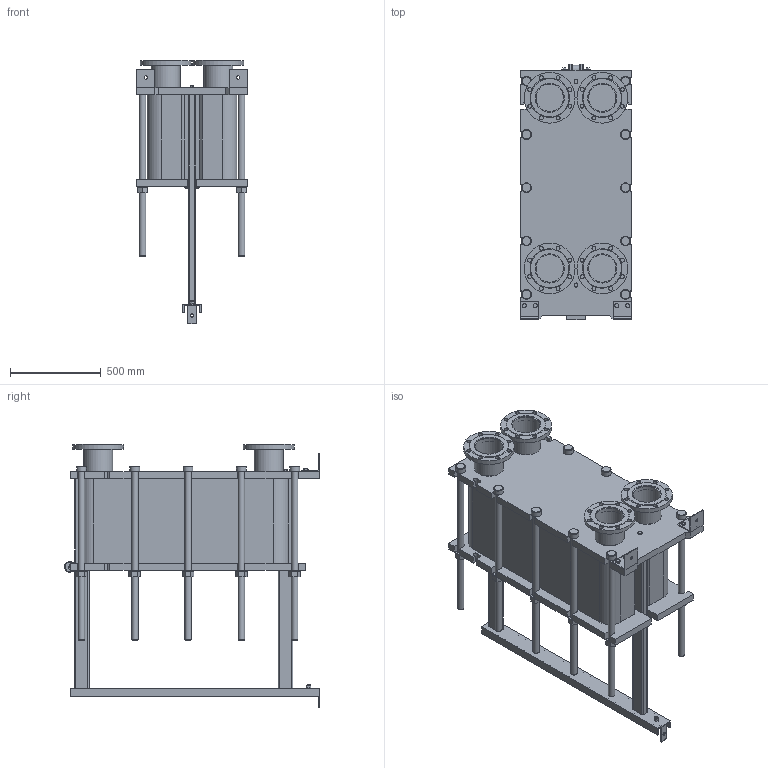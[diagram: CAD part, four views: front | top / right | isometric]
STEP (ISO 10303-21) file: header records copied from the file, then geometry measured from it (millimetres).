
FILE_DESCRIPTION(/* description */ (''),/* implementation_level */ '2;1');
FILE_NAME(/* name */ 'C:\Users\zhuro\Desktop\ENCO\TO\ЭН-041\ЭН-0,5-041-135-1.stp',/* time_stamp */ '2022-06-06T11:00:33+03:00',/* author */ ('zhuro'),/* organization */ (''),/* preprocessor_version */ 'ST-DEVELOPER v18.1',/* originating_system */ 'Autodesk Inventor 2022',/* authorisation */ '');
FILE_SCHEMA (('AUTOMOTIVE_DESIGN { 1 0 10303 214 3 1 1 }'));
Length unit declared in the file: millimetre
Products named in the file (1): ЭН-0,5-041-135-1
Bounding box: 610 x 1406.5 x 1452.5 mm (x, y, z)
Volume: 344887854 mm3; surface area: 9796232.4 mm2
Topology: 52 solids, 52 shells, 711 faces, 1696 edges, 1094 vertices
Faces by surface type: plane 487, cylinder 177, cone 41, torus 6
Full cylindrical faces by diameter (mm): 8 x4, 10 x2, 16 x8, 18 x3, 22 x32, 36 x24, 50 x1, 54 x10, 60 x12, 151 x4, 161 x8, 280 x4
Entity records: 22667 total; most frequent: CARTESIAN_POINT 5230, DIRECTION 3644, ORIENTED_EDGE 3392, EDGE_CURVE 1696, AXIS2_PLACEMENT_3D 1272, LINE 1100, VECTOR 1100, VERTEX_POINT 1094
